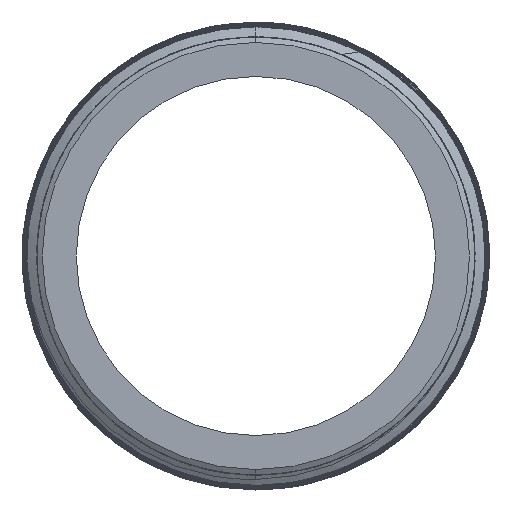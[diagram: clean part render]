
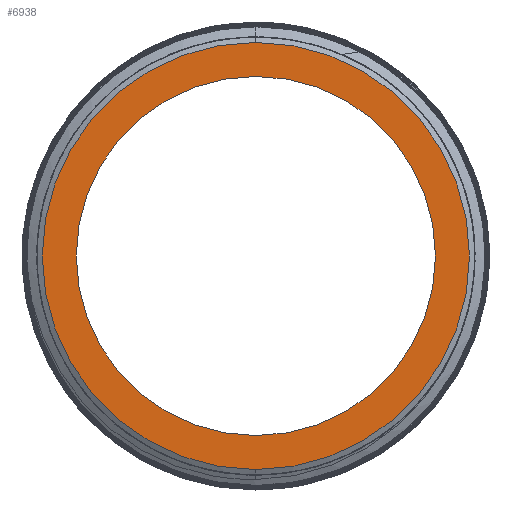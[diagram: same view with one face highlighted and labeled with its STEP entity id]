
A CAD part, left-side view. The second image highlights one B-rep face of the part: STEP entity #6938.
In plain terms, the highlighted planar face has unit normal (-1, 0, 0).
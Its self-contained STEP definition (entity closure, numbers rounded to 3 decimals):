
#145 = CARTESIAN_POINT ( 'NONE',  ( -500., 0., 0. ) ) ;
#167 = VERTEX_POINT ( 'NONE', #3398 ) ;
#250 = AXIS2_PLACEMENT_3D ( 'NONE', #2747, #6758, #4011 ) ;
#540 = FACE_BOUND ( 'NONE', #3042, .T. ) ;
#617 = EDGE_LOOP ( 'NONE', ( #4860, #3208 ) ) ;
#652 = ORIENTED_EDGE ( 'NONE', *, *, #5525, .F. ) ;
#863 = CARTESIAN_POINT ( 'NONE',  ( -500., 0., 0. ) ) ;
#1039 = CIRCLE ( 'NONE', #6355, 7.85 ) ;
#1221 = CIRCLE ( 'NONE', #1657, 7.85 ) ;
#1323 = AXIS2_PLACEMENT_3D ( 'NONE', #863, #3702, #3570 ) ;
#1359 = DIRECTION ( 'NONE',  ( -1., 0., 0. ) ) ;
#1542 = DIRECTION ( 'NONE',  ( 0., 0., 1. ) ) ;
#1657 = AXIS2_PLACEMENT_3D ( 'NONE', #6474, #3017, #5043 ) ;
#2121 = FACE_OUTER_BOUND ( 'NONE', #617, .T. ) ;
#2709 = PLANE ( 'NONE',  #250 ) ;
#2747 = CARTESIAN_POINT ( 'NONE',  ( -500., 6.6, 0. ) ) ;
#3017 = DIRECTION ( 'NONE',  ( -1., 0., 0. ) ) ;
#3042 = EDGE_LOOP ( 'NONE', ( #6047, #652 ) ) ;
#3074 = CARTESIAN_POINT ( 'NONE',  ( -500., 0., 7.85 ) ) ;
#3208 = ORIENTED_EDGE ( 'NONE', *, *, #3581, .T. ) ;
#3254 = VERTEX_POINT ( 'NONE', #3074 ) ;
#3398 = CARTESIAN_POINT ( 'NONE',  ( -500., 0., -6.6 ) ) ;
#3570 = DIRECTION ( 'NONE',  ( 0., 0., 1. ) ) ;
#3581 = EDGE_CURVE ( 'NONE', #3254, #6843, #1221, .T. ) ;
#3702 = DIRECTION ( 'NONE',  ( -1., 0., 0. ) ) ;
#4011 = DIRECTION ( 'NONE',  ( 0., 0., -1. ) ) ;
#4250 = EDGE_CURVE ( 'NONE', #6843, #3254, #1039, .T. ) ;
#4496 = CIRCLE ( 'NONE', #1323, 6.6 ) ;
#4852 = CIRCLE ( 'NONE', #7585, 6.6 ) ;
#4860 = ORIENTED_EDGE ( 'NONE', *, *, #4250, .T. ) ;
#4969 = DIRECTION ( 'NONE',  ( 0., 0., 1. ) ) ;
#5043 = DIRECTION ( 'NONE',  ( 0., 0., 1. ) ) ;
#5371 = VERTEX_POINT ( 'NONE', #8122 ) ;
#5525 = EDGE_CURVE ( 'NONE', #167, #5371, #4496, .T. ) ;
#5645 = CARTESIAN_POINT ( 'NONE',  ( -500., 0., 0. ) ) ;
#6047 = ORIENTED_EDGE ( 'NONE', *, *, #6673, .F. ) ;
#6355 = AXIS2_PLACEMENT_3D ( 'NONE', #5645, #1359, #4969 ) ;
#6474 = CARTESIAN_POINT ( 'NONE',  ( -500., 0., 0. ) ) ;
#6673 = EDGE_CURVE ( 'NONE', #5371, #167, #4852, .T. ) ;
#6758 = DIRECTION ( 'NONE',  ( 1., 0., 0. ) ) ;
#6843 = VERTEX_POINT ( 'NONE', #8570 ) ;
#6938 = ADVANCED_FACE ( 'NONE', ( #540, #2121 ), #2709, .F. ) ;
#7585 = AXIS2_PLACEMENT_3D ( 'NONE', #145, #7719, #1542 ) ;
#7719 = DIRECTION ( 'NONE',  ( -1., 0., 0. ) ) ;
#8122 = CARTESIAN_POINT ( 'NONE',  ( -500., 0., 6.6 ) ) ;
#8570 = CARTESIAN_POINT ( 'NONE',  ( -500., 0., -7.85 ) ) ;
